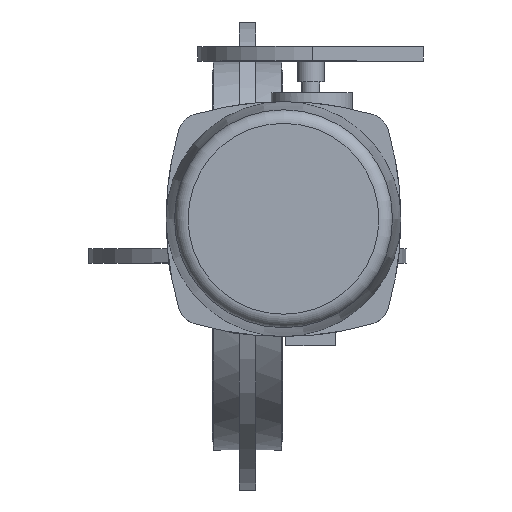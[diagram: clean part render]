
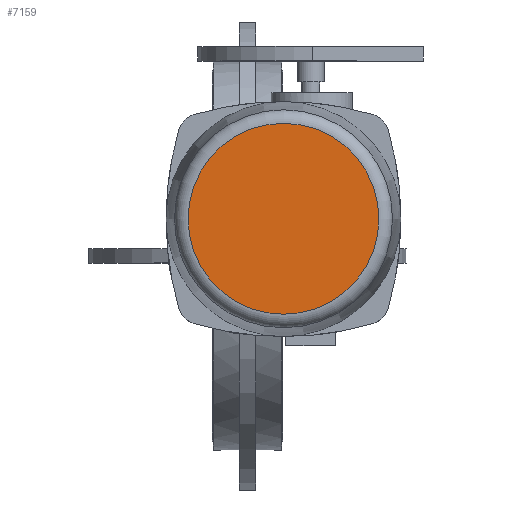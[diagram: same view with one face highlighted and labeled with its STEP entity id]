
A CAD part, top view. The second image highlights one B-rep face of the part: STEP entity #7159.
In plain terms, the highlighted planar face has unit normal (0, 0, 1).
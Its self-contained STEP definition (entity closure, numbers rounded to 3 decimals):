
#7159=ADVANCED_FACE('',(#12903),#12905,.T.);
#12903=FACE_BOUND('',#12904,.T.);
#12904=EDGE_LOOP('',(#17428));
#12905=PLANE('',#12906);
#12906=AXIS2_PLACEMENT_3D('',#12907,#12908,#12909);
#12907=CARTESIAN_POINT('',(40.,40.,710.));
#12908=DIRECTION('',(0.,0.,1.));
#12909=DIRECTION('',(-1.,0.,0.));
#17428=ORIENTED_EDGE('',*,*,#19719,.T.);
#19719=EDGE_CURVE('',#23505,#23505,#23506,.T.);
#23505=VERTEX_POINT('',#33954);
#23506=CIRCLE('',#33955,105.699);
#33954=CARTESIAN_POINT('',(-65.699,40.,710.));
#33955=AXIS2_PLACEMENT_3D('',#33956,#33957,#33958);
#33956=CARTESIAN_POINT('',(40.,40.,710.));
#33957=DIRECTION('',(0.,0.,1.));
#33958=DIRECTION('',(-1.,0.,0.));
